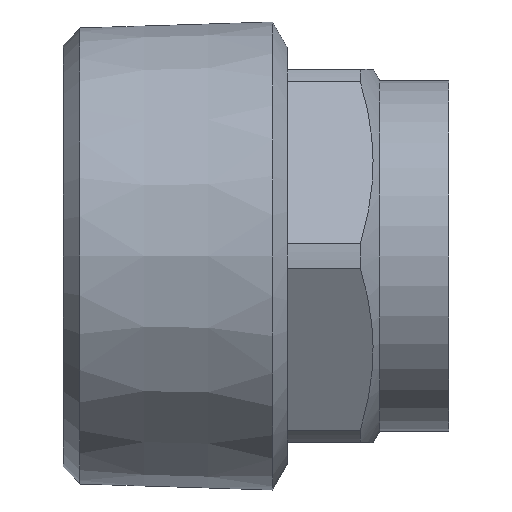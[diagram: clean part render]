
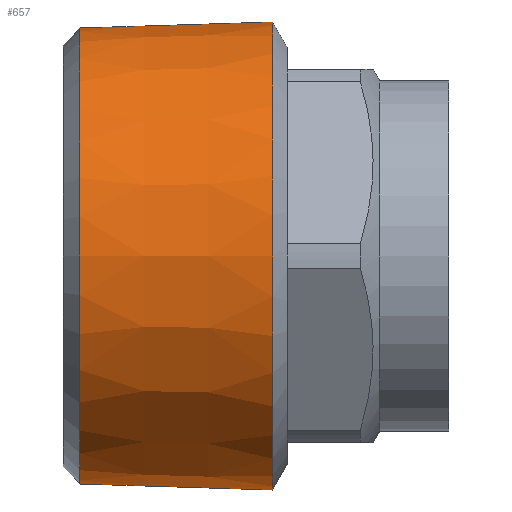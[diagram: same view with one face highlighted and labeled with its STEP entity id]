
A CAD part, front view. The second image highlights one B-rep face of the part: STEP entity #657.
In plain terms, the highlighted conical face has half-angle 1.79 degrees and reference radius 20.957 mm.
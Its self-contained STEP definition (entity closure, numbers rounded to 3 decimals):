
#606=CARTESIAN_POINT('',(1.499,20.707,0.));
#607=VERTEX_POINT('',#606);
#608=CARTESIAN_POINT('',(1.499,0.0,0.));
#609=DIRECTION('',(-1.0,0.0,0.0));
#610=DIRECTION('',(0.0,-1.0,0.0));
#611=AXIS2_PLACEMENT_3D('',#608,#609,#610);
#612=CIRCLE('',#611,20.707);
#613=EDGE_CURVE('',#607,#607,#612,.T.);
#638=CARTESIAN_POINT('',(9.5,0.0,0.0));
#639=DIRECTION('',(1.0,0.0,0.0));
#640=DIRECTION('',(0.0,1.0,0.0));
#641=AXIS2_PLACEMENT_3D('',#638,#639,#640);
#642=CONICAL_SURFACE('',#641,20.957,1.79);
#643=CARTESIAN_POINT('',(19.0,21.254,0.0));
#644=VERTEX_POINT('',#643);
#645=CARTESIAN_POINT('',(19.0,0.0,0.0));
#646=DIRECTION('',(1.0,0.0,0.0));
#647=DIRECTION('',(0.0,1.0,0.0));
#648=AXIS2_PLACEMENT_3D('',#645,#646,#647);
#649=CIRCLE('',#648,21.254);
#650=EDGE_CURVE('',#644,#644,#649,.T.);
#651=ORIENTED_EDGE('',*,*,#650,.F.);
#652=EDGE_LOOP('',(#651));
#653=FACE_OUTER_BOUND('',#652,.T.);
#654=ORIENTED_EDGE('',*,*,#613,.F.);
#655=EDGE_LOOP('',(#654));
#656=FACE_BOUND('',#655,.T.);
#657=ADVANCED_FACE('',(#653,#656),#642,.T.);
